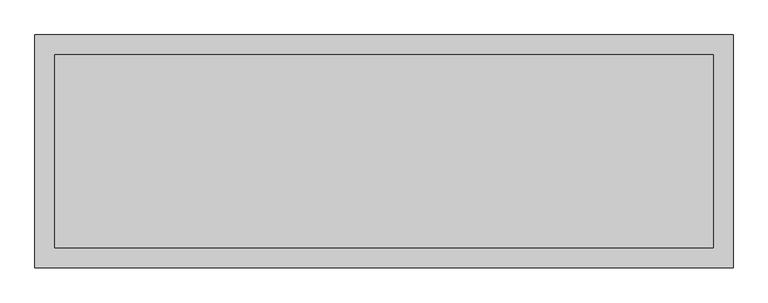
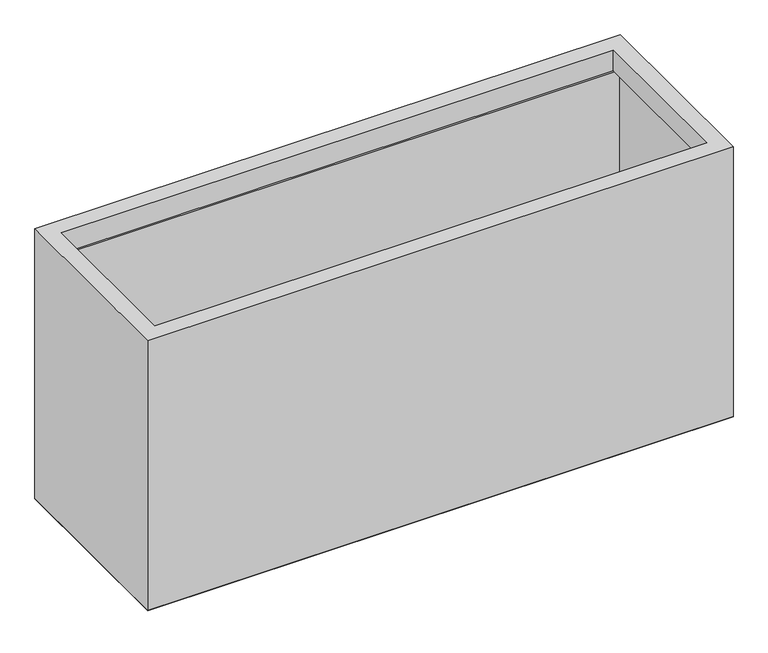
"""IFC4 building model written with IfcOpenShell, lengths in millimetres: furniture geometry."""

from ifc_helpers import new_model, si_unit, origin, origin_with_axes, place, context, project, spatial, polyline, outline, extrude, faceted_brep, source, transform, mapped, element, save


def furniture_c5b035db(model_context):
    return source(origin(), model_context, "Body", "SolidModel", [
        extrude(outline(polyline([(588.01, -103.124), (588.01, -181.61), (343.154, -181.61), (343.154, -133.604), (540.004, -133.604), (540.004, -103.124), (588.01, -103.124)])), origin_with_axes(), (0.0, 0.0, 1.0), 15.24),
        extrude(outline(polyline([(-588.01, 103.124), (-588.01, 181.61), (-343.154, 181.61), (-343.154, 133.604), (-540.004, 133.604), (-540.004, 103.124), (-588.01, 103.124)])), origin_with_axes(), (0.0, 0.0, 1.0), 15.24),
        extrude(outline(polyline([(98.425, 39.37), (98.425, -39.37), (-98.425, -39.37), (-98.425, 39.37), (98.425, 39.37)])), origin_with_axes(), (0.0, 0.0, 1.0), 15.24),
        extrude(outline(polyline([(588.01, 103.124), (540.004, 103.124), (540.004, 133.604), (343.154, 133.604), (343.154, 181.61), (588.01, 181.61), (588.01, 103.124)])), origin_with_axes(), (0.0, 0.0, 1.0), 15.24),
        faceted_brep([(604.52, -198.12, 20.32), (604.52, 198.12, 20.32), (-604.52, 198.12, 20.32), (-604.52, -198.12, 20.32), (-609.6, 203.2, 15.24), (609.6, 203.2, 15.24), (609.6, -203.2, 15.24), (-609.6, -203.2, 15.24)], [[[0, 1, 2, 3]], [[4, 5, 6, 7]], [[1, 5, 4, 2]], [[2, 4, 7, 3]], [[3, 7, 6, 0]], [[0, 6, 5, 1]]]),
        faceted_brep([(574.675, -168.275, 609.6), (574.675, 168.275, 609.6), (574.675, 168.275, 563.88), (574.675, -168.275, 563.88), (609.6, -203.2, 15.24), (609.6, 203.2, 15.24), (609.6, 203.2, 609.6), (609.6, -203.2, 609.6), (604.52, -198.12, 20.32), (604.52, 198.12, 20.32), (604.52, -198.12, 536.448), (604.52, 198.12, 536.448), (-574.675, -168.275, 609.6), (-574.675, -168.275, 563.88), (-609.6, -203.2, 15.24), (-609.6, -203.2, 609.6), (-604.52, -198.12, 20.32), (-604.52, -198.12, 536.448), (-574.675, 168.275, 609.6), (-574.675, 168.275, 563.88), (-609.6, 203.2, 15.24), (-609.6, 203.2, 609.6), (-604.52, 198.12, 20.32), (-604.52, 198.12, 536.448)], [[[0, 1, 2, 3]], [[4, 5, 6, 7]], [[8, 9, 5, 4]], [[10, 11, 9, 8]], [[3, 2, 11, 10]], [[12, 0, 3, 13]], [[14, 4, 7, 15]], [[16, 8, 4, 14]], [[17, 10, 8, 16]], [[13, 3, 10, 17]], [[18, 12, 13, 19]], [[20, 14, 15, 21]], [[22, 16, 14, 20]], [[23, 17, 16, 22]], [[19, 13, 17, 23]], [[1, 18, 19, 2]], [[7, 6, 21, 15], [1, 0, 12, 18]], [[5, 20, 21, 6]], [[9, 22, 20, 5]], [[11, 23, 22, 9]], [[2, 19, 23, 11]]]),
        extrude(outline(polyline([(-588.01, -103.124), (-540.004, -103.124), (-540.004, -133.604), (-343.154, -133.604), (-343.154, -181.61), (-588.01, -181.61), (-588.01, -103.124)])), origin_with_axes(), (0.0, 0.0, 1.0), 15.24),
    ])


if __name__ == "__main__":
    model = new_model("IFC4")
    model_context = context("Model", 3, world=origin())
    ifc_project = project(units=[si_unit("LENGTHUNIT", "METRE", prefix="MILLI")], contexts=[model_context])
    site = spatial("IfcSite", under=ifc_project)
    building = spatial("IfcBuilding", under=site)
    placement = place(None, origin())
    furniture_shape = furniture_c5b035db(model_context)
    element("IfcFurniture", 1, ObjectType="Mobilier - Furniture-Pots_Planters_and_More-Tolga_Modern_Planter_Boxes - 48\" L x 16\" W x 24\" H", at=placement, inside=building, context=model_context, shape_type="MappedRepresentation", body=[
        mapped(furniture_shape, transform((0.0, 0.0, 0.0), x_axis=(1.0, 0.0, 0.0), y_axis=(0.0, 1.0, 0.0), z_axis=(0.0, 0.0, 1.0))),
    ])
    save(model, "model.ifc")
